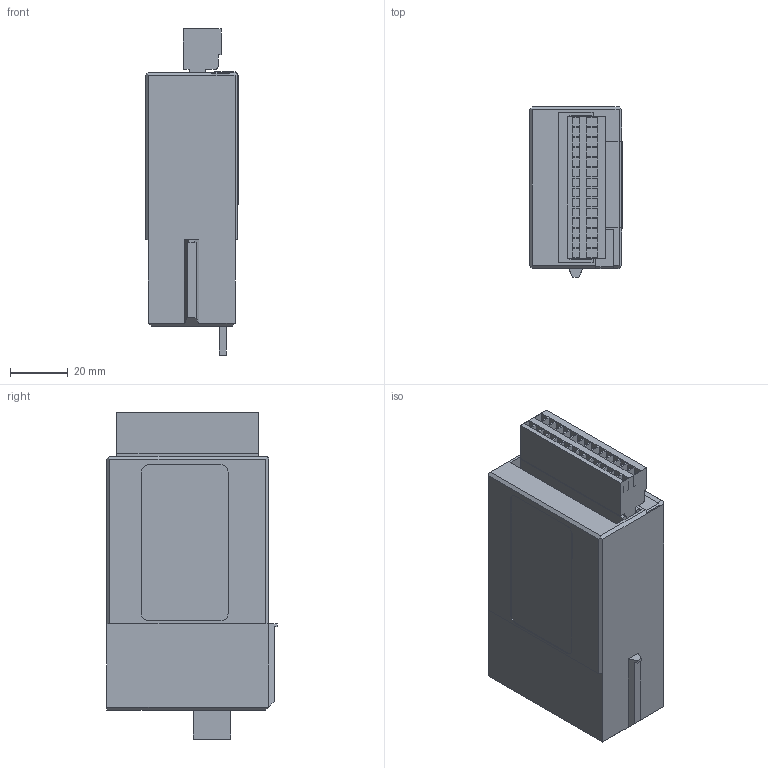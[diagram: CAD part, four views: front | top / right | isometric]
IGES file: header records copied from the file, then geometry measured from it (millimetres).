
Global section: file name: SBC_IGES_PLC_PCD3W625_Plug-E_2020-02-14.iges; native system: CAD Exchanger; preprocessor: CAD Exchanger 3.9.0 (cadexchanger.com); date: 20210106.114550; units: millimetre
Bounding box: 32.2 x 59 x 113 mm (x, y, z)
Volume: 60637.3 mm3; surface area: 55423.5 mm2
Topology: 9 solids, 9 shells, 269 faces, 652 edges, 432 vertices
Faces by surface type: plane 258, cylinder 11
